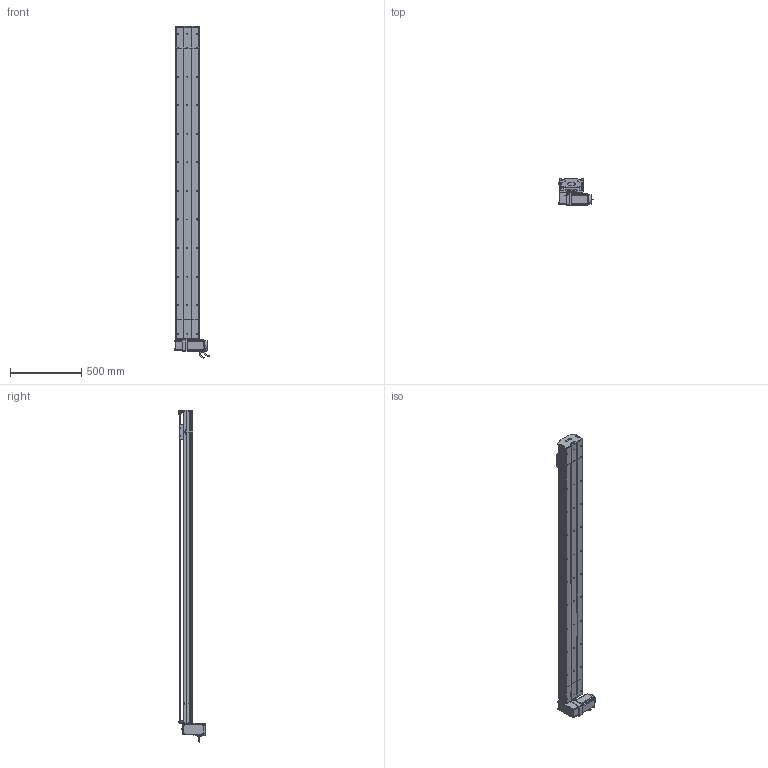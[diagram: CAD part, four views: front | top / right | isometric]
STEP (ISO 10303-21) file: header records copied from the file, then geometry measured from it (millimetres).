
FILE_DESCRIPTION (( 'STEP AP214' ), '1' );
FILE_NAME ('D17 TBN RU S1900.STEP', '2010-06-30T11:16:47', ( 'Christophe Gaillard' ), ( 'SGA' ), 'SwSTEP 2.0', 'SolidWorks 2010', '' );
FILE_SCHEMA (( 'AUTOMOTIVE_DESIGN' ));
Length unit declared in the file: millimetre
Products named in the file (40): Tail D17B+100_Default; Couroie tail D17B_Default; couvercle D17B_Default; vis M5 L12_Default; vis M5 L8 90°_Default; codeur 90BLDC125-640; Conecteur2_Default; Conecteur_Default; vis M5 L70_Default; couroie head D17_Default; Moteur motionking 90BLDC125A-640; avant 90BLDC125A-640; corps 90BLDC125A-640; poulie head_Default; plaque de  bout head D17B RU_Default; Arbre+rail head D17B; Chariot D17 TBN; cache D17_Default; vis M5 L5_Default; couvercle D17B course L1900_Default; guide D17; Head RU D17B_Default; corpl head D17 _Default; plaque de  bout tail D17B_Default; tete d''axe poulie D17B; Rail D17B; vis M5 L25_Default; corp tail D17B+100_Default; Plaque racord D17_Default; vis M5 L16_Default; chariot D17 TBN; Vis M5 L16-2_Default; cache arbre D17_Default; Renvoi RU_Default; D17 TBN RU S1900; course 1900 D17B_Default; Couroie+ rail D17 Course 1900 ; corp D17B 1900_Default; couvercle D17B head_Default; poulie tail_Default
Assembly tree (66 placements, depth 4):
  D17 TBN RU S1900
    chariot D17 TBN
      Chariot D17 TBN
      guide D17  x2
    Head RU D17B_Default
      Arbre+rail head D17B
      vis M5 L12_Default  x8
      vis M5 L70_Default  x4
      cache D17_Default  x2
      cache arbre D17_Default
      Moteur motionking 90BLDC125A-640
        corps 90BLDC125A-640
        Conecteur_Default
        Conecteur2_Default
        codeur 90BLDC125-640
        avant 90BLDC125A-640
      vis M5 L5_Default  x4
      Vis M5 L16-2_Default  x4
      poulie head_Default
      Renvoi RU_Default
      Plaque racord D17_Default
      vis M5 L25_Default  x2
      corpl head D17 _Default
      couvercle D17B head_Default
      vis M5 L16_Default  x2
      plaque de  bout head D17B RU_Default
      couroie head D17_Default
    Tail D17B+100_Default
      Rail D17B
      vis M5 L8 90°_Default  x2
      Couroie tail D17B_Default
      tete d''axe poulie D17B
      vis M5 L25_Default  x2
      couvercle D17B_Default
      vis M5 L12_Default  x4
      corp tail D17B+100_Default
      plaque de  bout tail D17B_Default
      poulie tail_Default
    course 1900 D17B_Default
      Couroie+ rail D17 Course 1900 
      couvercle D17B course L1900_Default
      corp D17B 1900_Default
Bounding box: 245.2 x 188.65 x 2323.95 mm (x, y, z)
Volume: 13658986.2 mm3; surface area: 3931577.6 mm2
Topology: 89 solids, 89 shells, 2595 faces, 6623 edges, 4270 vertices
Faces by surface type: plane 1537, cylinder 761, bspline 136, cone 80, torus 77, sphere 4
Entity records: 84093 total; most frequent: CARTESIAN_POINT 25053, ORIENTED_EDGE 10418, DIRECTION 9838, EDGE_CURVE 5209, LINE 3460, VECTOR 3460, VERTEX_POINT 3414, AXIS2_PLACEMENT_3D 3189
